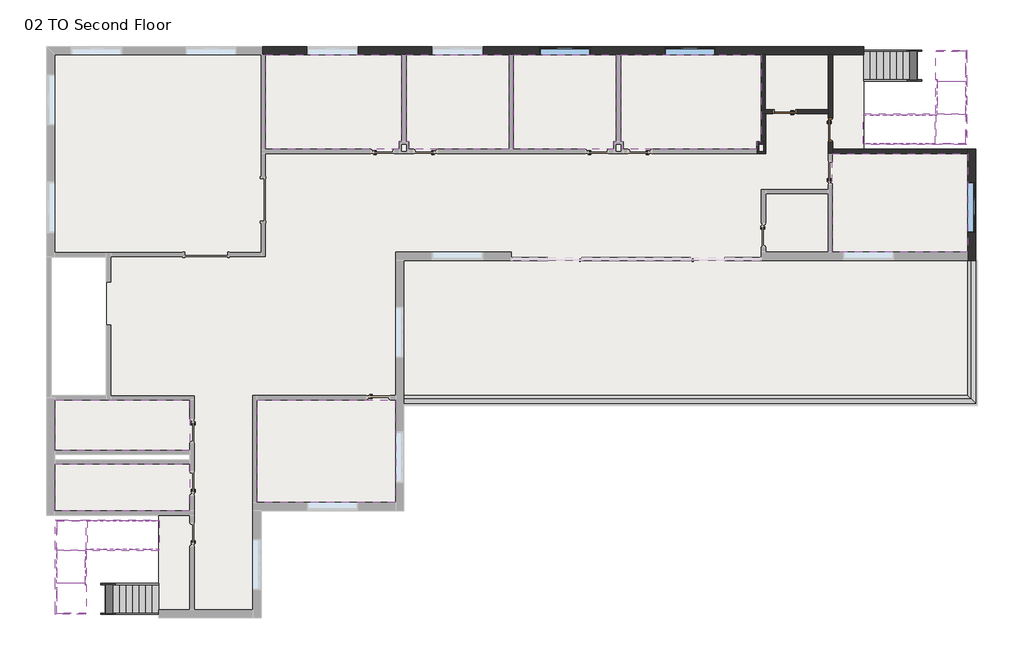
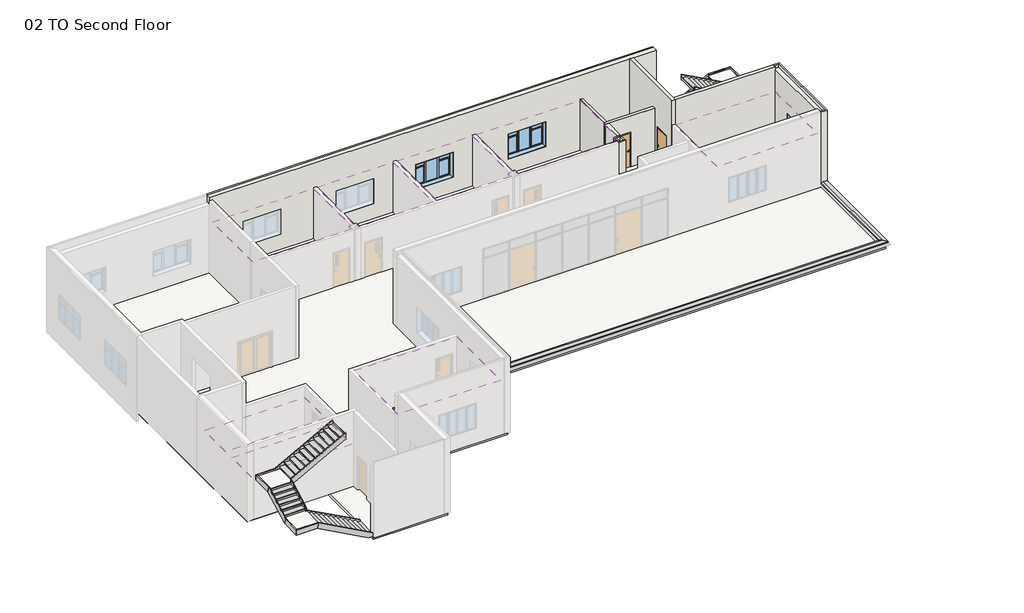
# One storey, part 3 of 3: 20 members, 11 walls, 8 coverings, 6 stair flights, 5 slabs, 3 windows, 2 doors, 2 proxies.
"""IFC4 building model written with IfcOpenShell, lengths in millimetres."""

from ifc_helpers import new_model, si_unit, frame, origin, place, context, project, spatial, polyline, outline, extrude, faceted_brep, transform, mapped, element, save
from components import door_c4c6d6d8, door_9c0c0bcf, non_monolithic_landing_1da9b7fb, non_monolithic_landing_b544ea09, non_monolithic_landing_3a4293be, non_monolithic_landing_285780d2, stair_flight_635392da, stair_flight_28b25a8f, stair_flight_2eaa03d7, stair_flight_7ab5661e, stair_flight_300c26f1, stair_flight_60157ff4, window_casement_triple_side_transom_c3c25feb

model = new_model("IFC4")

# Units and contexts
model_context = context("Model", 3, world=origin())
ifc_project = project(units=[si_unit("LENGTHUNIT", "METRE", prefix="MILLI")], contexts=[model_context])

# Site, building, storey
site = spatial("IfcSite", under=ifc_project)
building = spatial("IfcBuilding", under=site)
storey = spatial("IfcBuildingStorey", under=building, Name="02 TO Second Floor", Elevation=4572.0)

# Proxies
placement = place(None, origin())
element("IfcBuildingElementProxy", 1, Name="Wall Sweeps", at=placement, inside=storey, context=model_context, shape_type="Brep", body=[
    faceted_brep([(-4282.7273699, -5989.8253362, 4838.7), (-4282.7273699, -5761.2253362, 4876.8), (-4282.7273699, -5634.2253362, 4838.7), (-4282.7273699, -5634.2253362, 4775.2), (-4282.7273699, -5989.8253362, 4775.2), (20101.2726301, -5989.8253362, 4838.7), (20101.2726301, -5989.8253362, 4775.2), (19745.6726301, -5634.2253362, 4775.2), (19745.6726301, -5634.2253362, 4838.7), (19872.6726301, -5761.2253362, 4876.8)], [[[0, 1, 2, 3, 4]], [[5, 6, 7, 8, 9]], [[0, 4, 6, 5]], [[4, 3, 7, 6]], [[3, 2, 8, 7]], [[2, 1, 9, 8]], [[1, 0, 5, 9]]]),
])
element("IfcBuildingElementProxy", 2, Name="Wall Sweeps", at=placement, inside=storey, context=model_context, shape_type="Brep", body=[
    faceted_brep([(20101.2726301, -5989.8253362, 4838.7), (19872.6726301, -5761.2253362, 4876.8), (19745.6726301, -5634.2253362, 4838.7), (19745.6726301, -5634.2253362, 4775.2), (20101.2726301, -5989.8253362, 4775.2), (20101.2726301, 115.6996638, 4838.7), (20101.2726301, 115.6996638, 4775.2), (19745.6726301, 115.6996638, 4775.2), (19745.6726301, 115.6996638, 4838.7), (19872.6726301, 115.6996638, 4876.8), (20101.2726301, -5634.2253362, 4775.2)], [[[0, 1, 2, 3, 4]], [[5, 6, 7, 8, 9]], [[0, 4, 10, 6, 5]], [[4, 3, 7, 6, 10]], [[3, 2, 8, 7]], [[2, 1, 9, 8]], [[1, 0, 5, 9]]]),
])

# Coverings
element("IfcCovering", 3, ObjectType="2' x 2' ACT System", at=placement, inside=storey, context=model_context, shape_type="SweptSolid", body=[
    extrude(outline(polyline([(-10194.5773699, 4862.3246638), (-10194.5773699, 8894.5746638), (-4374.8023699, 8894.5746638), (-4374.8023699, 5186.1746638), (-4486.4059277, 5186.1746638), (-4486.4059277, 4862.3246638), (-10194.5773699, 4862.3246638)])), frame((0.0, 0.0, 7620.0), z_axis=(0.0, 0.0, 1.0), x_axis=(1.0, 0.0, 0.0)), (0.0, 0.0, 1.0), 57.15),
])
element("IfcCovering", 4, ObjectType="2' x 2' ACT System", at=placement, inside=storey, context=model_context, shape_type="SweptSolid", body=[
    extrude(outline(polyline([(197.1976301, 8894.5746638), (197.1976301, 4862.3246638), (-4079.0488122, 4862.3246638), (-4079.0488122, 5186.1746638), (-4190.6523699, 5186.1746638), (-4190.6523699, 8894.5746638), (197.1976301, 8894.5746638)])), frame((0.0, 0.0, 7620.0), z_axis=(0.0, 0.0, 1.0), x_axis=(1.0, 0.0, 0.0)), (0.0, 0.0, 1.0), 57.15),
])
element("IfcCovering", 5, ObjectType="2' x 2' ACT System", at=placement, inside=storey, context=model_context, shape_type="SweptSolid", body=[
    extrude(outline(polyline([(381.3476301, 4862.3246638), (381.3476301, 8894.5746638), (4769.1976301, 8894.5746638), (4769.1976301, 5186.1746638), (4657.5940723, 5186.1746638), (4657.5940723, 4862.3246638), (381.3476301, 4862.3246638)])), frame((0.0, 0.0, 7620.0), z_axis=(0.0, 0.0, 1.0), x_axis=(1.0, 0.0, 0.0)), (0.0, 0.0, 1.0), 57.15),
])
element("IfcCovering", 6, ObjectType="2' x 2' ACT System", at=placement, inside=storey, context=model_context, shape_type="SweptSolid", body=[
    extrude(outline(polyline([(10754.0726301, 5186.1746638), (10754.0726301, 4862.3246638), (5064.9511878, 4862.3246638), (5064.9511878, 5186.1746638), (4953.3476301, 5186.1746638), (4953.3476301, 8894.5746638), (10957.2726301, 8894.5746638), (10957.2726301, 6464.1121638), (10957.2726301, 5186.1746638), (10754.0726301, 5186.1746638)])), frame((0.0, 0.0, 7620.0), z_axis=(0.0, 0.0, 1.0), x_axis=(1.0, 0.0, 0.0)), (0.0, 0.0, 1.0), 57.15),
])
element("IfcCovering", 7, ObjectType="2' x 2' ACT System", at=placement, inside=storey, context=model_context, shape_type="SweptSolid", body=[
    extrude(outline(polyline([(19745.6726301, 4678.1746638), (19745.6726301, 471.2996638), (13986.2226301, 471.2996638), (13986.2226301, 4678.1746638), (19745.6726301, 4678.1746638)])), frame((0.0, 0.0, 7620.0), z_axis=(0.0, 0.0, 1.0), x_axis=(1.0, 0.0, 0.0)), (0.0, 0.0, 1.0), 57.15),
])
element("IfcCovering", 8, ObjectType="2' x 2' ACT System", at=placement, inside=storey, context=model_context, shape_type="SweptSolid", body=[
    extrude(outline(polyline([(-4638.3273699, -5827.9003362), (-4638.3273699, -10206.2253362), (-10550.1773699, -10206.2253362), (-10550.1773699, -5827.9003362), (-4638.3273699, -5827.9003362)])), frame((0.0, 0.0, 7620.0), z_axis=(0.0, 0.0, 1.0), x_axis=(1.0, 0.0, 0.0)), (0.0, 0.0, 1.0), 57.15),
])
element("IfcCovering", 9, ObjectType="2' x 2' ACT System", at=placement, inside=storey, context=model_context, shape_type="SweptSolid", body=[
    extrude(outline(polyline([(-19167.1273699, -7988.4878362), (-19167.1273699, -5837.4253362), (-16881.1273699, -5837.4253362), (-13407.6773699, -5837.4253362), (-13407.6773699, -7988.4878362), (-19167.1273699, -7988.4878362)])), frame((0.0, 0.0, 7010.4), z_axis=(0.0, 0.0, 1.0), x_axis=(1.0, 0.0, 0.0)), (0.0, 0.0, 1.0), 57.15),
])
element("IfcCovering", 10, ObjectType="2' x 2' ACT System", at=placement, inside=storey, context=model_context, shape_type="SweptSolid", body=[
    extrude(outline(polyline([(-13407.6773699, -10561.8253362), (-19167.1273699, -10561.8253362), (-19167.1273699, -8563.1628362), (-13407.6773699, -8563.1628362), (-13407.6773699, -10561.8253362)])), frame((0.0, 0.0, 7010.4), z_axis=(0.0, 0.0, 1.0), x_axis=(1.0, 0.0, 0.0)), (0.0, 0.0, 1.0), 57.15),
])

# Doors
door_shape = door_c4c6d6d8(model_context)
element("IfcDoor", 11, ObjectType="Door-Passage-Single-Flush : Door Passage Single Flush_36\" x 80\"", at=placement, inside=storey, context=model_context, shape_type="MappedRepresentation", body=[
    mapped(door_shape, transform((13910.0226301, 5694.1746638, 4572.0), x_axis=(0.0, -1.0, 0.0), y_axis=(1.0, 0.0, 0.0), z_axis=(0.0, 0.0, 1.0))),
])
door_2_shape = door_9c0c0bcf(model_context)
element("IfcDoor", 12, ObjectType="Door-Passage-Single-Flush : Door Passage Single Flush_36\" x 80\"", at=placement, inside=storey, context=model_context, shape_type="MappedRepresentation", body=[
    mapped(door_2_shape, transform((11955.8101301, 6470.4621638, 4572.0), x_axis=(-1.0, 0.0, 0.0), y_axis=(0.0, -1.0, 0.0), z_axis=(0.0, 0.0, 1.0))),
])

# Members
element("IfcMember", 13, ObjectType="Stringer - 2\" Width", at=placement, inside=storey, context=model_context, shape_type="SweptSolid", body=[
    extrude(outline(polyline([(7391.4, -18060.2574256), (7086.6, -17982.53525), (8851.1497528, -14747.5273699), (9198.3436667, -14747.5273699), (7391.4, -18060.2574256)])), frame((0.0, -10993.6253362, 0.0), z_axis=(0.0, 1.0, 0.0), x_axis=(0.0, 0.0, 1.0)), (0.0, 0.0, 1.0), 50.8),
])
element("IfcMember", 14, ObjectType="Stringer - 2\" Width", at=placement, inside=storey, context=model_context, shape_type="SweptSolid", body=[
    extrude(outline(polyline([(7494.2345758, -17871.7273699), (7147.0406619, -17871.7273699), (8851.1497528, -14747.5273699), (9198.3436667, -14747.5273699), (7494.2345758, -17871.7273699)])), frame((0.0, -12263.6253362, 0.0), z_axis=(0.0, 1.0, 0.0), x_axis=(0.0, 0.0, 1.0)), (0.0, 0.0, 1.0), 50.8),
])
element("IfcMember", 15, ObjectType="Stringer - 2\" Width", at=placement, inside=storey, context=model_context, shape_type="SweptSolid", body=[
    extrude(outline(polyline([(-13822.2332163, 6172.2), (-13899.9553918, 6477.0), (-12223.5553918, 7391.4), (-12145.8332163, 7086.6), (-13822.2332163, 6172.2)])), frame((-19141.7273699, 0.0, 0.0), z_axis=(1.0, 0.0, 0.0), x_axis=(0.0, 1.0, 0.0)), (0.0, 0.0, 1.0), 50.8),
])
element("IfcMember", 16, ObjectType="Stringer - 2\" Width", at=placement, inside=storey, context=model_context, shape_type="SweptSolid", body=[
    extrude(outline(polyline([(-13711.4253362, 6232.6406619), (-13711.4253362, 6579.8345758), (-12263.6253362, 7369.5436667), (-12263.6253362, 7022.3497528), (-13711.4253362, 6232.6406619)])), frame((-17871.7273699, 0.0, 0.0), z_axis=(1.0, 0.0, 0.0), x_axis=(0.0, 1.0, 0.0)), (0.0, 0.0, 1.0), 50.8),
])
element("IfcMember", 17, ObjectType="Stringer - 2\" Width", at=placement, inside=storey, context=model_context, shape_type="Brep", body=[
    faceted_brep([(-18060.2574256, -10993.6253362, 7391.4), (-18060.2574256, -10942.8253362, 7391.4), (-19141.7273699, -10942.8253362, 7391.4), (-19090.9273699, -10993.6253362, 7391.4), (-17982.53525, -10993.6253362, 7086.6), (-19090.9273699, -10993.6253362, 7086.6), (-17982.53525, -10942.8253362, 7086.6), (-19141.7273699, -10942.8253362, 7086.6)], [[[0, 1, 2, 3]], [[4, 0, 3, 5]], [[6, 4, 5, 7]], [[1, 6, 7, 2]], [[1, 0, 4, 6]], [[2, 7, 5, 3]]]),
])
element("IfcMember", 18, ObjectType="Stringer - 2\" Width", at=placement, inside=storey, context=model_context, shape_type="Brep", body=[
    faceted_brep([(-19090.9273699, -10993.6253362, 7391.4), (-19141.7273699, -10942.8253362, 7391.4), (-19141.7273699, -12223.5553918, 7391.4), (-19090.9273699, -12223.5553918, 7391.4), (-19090.9273699, -10993.6253362, 7086.6), (-19090.9273699, -12145.8332163, 7086.6), (-19141.7273699, -10942.8253362, 7086.6), (-19141.7273699, -12145.8332163, 7086.6)], [[[0, 1, 2, 3]], [[4, 0, 3, 5]], [[6, 4, 5, 7]], [[1, 6, 7, 2]], [[1, 0, 4, 6]], [[2, 7, 5, 3]]]),
])
element("IfcMember", 19, ObjectType="Stringer - 2\" Width", at=placement, inside=storey, context=model_context, shape_type="SweptSolid", body=[
    extrude(outline(polyline([(4572.0, -14747.5273699), (4778.7436667, -14747.5273699), (6477.0, -17860.9973143), (6172.2, -17938.7194899), (4572.0, -15005.0194899), (4572.0, -14747.5273699)])), frame((0.0, -14981.4253362, 0.0), z_axis=(0.0, 1.0, 0.0), x_axis=(0.0, 0.0, 1.0)), (0.0, 0.0, 1.0), 50.8),
])
element("IfcMember", 20, ObjectType="Stringer - 2\" Width", at=placement, inside=storey, context=model_context, shape_type="SweptSolid", body=[
    extrude(outline(polyline([(4572.0, -14747.5273699), (4778.7436667, -14747.5273699), (6455.1436667, -17820.9273699), (6107.9497528, -17820.9273699), (4572.0, -15005.0194899), (4572.0, -14747.5273699)])), frame((0.0, -13711.4253362, 0.0), z_axis=(0.0, 1.0, 0.0), x_axis=(0.0, 0.0, 1.0)), (0.0, 0.0, 1.0), 50.8),
])
element("IfcMember", 21, ObjectType="Stringer - 2\" Width", at=placement, inside=storey, context=model_context, shape_type="Brep", body=[
    faceted_brep([(-19090.9273699, -13899.9553918, 6477.0), (-19141.7273699, -13899.9553918, 6477.0), (-19141.7273699, -14981.4253362, 6477.0), (-19090.9273699, -14930.6253362, 6477.0), (-19090.9273699, -13822.2332163, 6172.2), (-19090.9273699, -14930.6253362, 6172.2), (-19141.7273699, -13822.2332163, 6172.2), (-19141.7273699, -14981.4253362, 6172.2)], [[[0, 1, 2, 3]], [[4, 0, 3, 5]], [[6, 4, 5, 7]], [[1, 6, 7, 2]], [[1, 0, 4, 6]], [[2, 7, 5, 3]]]),
])
element("IfcMember", 22, ObjectType="Stringer - 2\" Width", at=placement, inside=storey, context=model_context, shape_type="Brep", body=[
    faceted_brep([(-19090.9273699, -14930.6253362, 6477.0), (-19141.7273699, -14981.4253362, 6477.0), (-17860.9973143, -14981.4253362, 6477.0), (-17860.9973143, -14930.6253362, 6477.0), (-19090.9273699, -14930.6253362, 6172.2), (-17938.7194899, -14930.6253362, 6172.2), (-19141.7273699, -14981.4253362, 6172.2), (-17938.7194899, -14981.4253362, 6172.2)], [[[0, 1, 2, 3]], [[4, 0, 3, 5]], [[6, 4, 5, 7]], [[1, 6, 7, 2]], [[1, 0, 4, 6]], [[2, 7, 5, 3]]]),
])
element("IfcMember", 23, ObjectType="Stringer - 2\" Width", at=placement, inside=storey, context=model_context, shape_type="SweptSolid", body=[
    extrude(outline(polyline([(7086.6, 18561.0805101), (7391.4, 18638.8026857), (9198.3436667, 15326.0726301), (8851.1497528, 15326.0726301), (7086.6, 18561.0805101)])), frame((0.0, 5059.1746638, 0.0), z_axis=(0.0, 1.0, 0.0), x_axis=(0.0, 0.0, 1.0)), (0.0, 0.0, 1.0), 50.8),
])
element("IfcMember", 24, ObjectType="Stringer - 2\" Width", at=placement, inside=storey, context=model_context, shape_type="SweptSolid", body=[
    extrude(outline(polyline([(7147.0406619, 18450.2726301), (7494.2345758, 18450.2726301), (9198.3436667, 15326.0726301), (8851.1497528, 15326.0726301), (7147.0406619, 18450.2726301)])), frame((0.0, 6329.1746638, 0.0), z_axis=(0.0, 1.0, 0.0), x_axis=(0.0, 0.0, 1.0)), (0.0, 0.0, 1.0), 50.8),
])
element("IfcMember", 25, ObjectType="Stringer - 2\" Width", at=placement, inside=storey, context=model_context, shape_type="SweptSolid", body=[
    extrude(outline(polyline([(8016.3047195, 6477.0), (7938.5825439, 6172.2), (6262.1825439, 7086.6), (6339.9047195, 7391.4), (8016.3047195, 6477.0)])), frame((19669.4726301, 0.0, 0.0), z_axis=(1.0, 0.0, 0.0), x_axis=(0.0, 1.0, 0.0)), (0.0, 0.0, 1.0), 50.8),
])
element("IfcMember", 26, ObjectType="Stringer - 2\" Width", at=placement, inside=storey, context=model_context, shape_type="SweptSolid", body=[
    extrude(outline(polyline([(7827.7746638, 6579.8345758), (7827.7746638, 6232.6406619), (6379.9746638, 7022.3497528), (6379.9746638, 7369.5436667), (7827.7746638, 6579.8345758)])), frame((18399.4726301, 0.0, 0.0), z_axis=(1.0, 0.0, 0.0), x_axis=(0.0, 1.0, 0.0)), (0.0, 0.0, 1.0), 50.8),
])
element("IfcMember", 27, ObjectType="Stringer - 2\" Width", at=placement, inside=storey, context=model_context, shape_type="Brep", body=[
    faceted_brep([(18638.8026857, 5109.9746638, 7391.4), (18638.8026857, 5059.1746638, 7391.4), (19720.2726301, 5059.1746638, 7391.4), (19669.4726301, 5109.9746638, 7391.4), (18561.0805101, 5109.9746638, 7086.6), (19669.4726301, 5109.9746638, 7086.6), (18561.0805101, 5059.1746638, 7086.6), (19720.2726301, 5059.1746638, 7086.6)], [[[0, 1, 2, 3]], [[4, 0, 3, 5]], [[6, 4, 5, 7]], [[1, 6, 7, 2]], [[1, 0, 4, 6]], [[2, 7, 5, 3]]]),
])
element("IfcMember", 28, ObjectType="Stringer - 2\" Width", at=placement, inside=storey, context=model_context, shape_type="Brep", body=[
    faceted_brep([(19669.4726301, 5109.9746638, 7391.4), (19720.2726301, 5059.1746638, 7391.4), (19720.2726301, 6339.9047195, 7391.4), (19669.4726301, 6339.9047195, 7391.4), (19669.4726301, 5109.9746638, 7086.6), (19669.4726301, 6262.1825439, 7086.6), (19720.2726301, 5059.1746638, 7086.6), (19720.2726301, 6262.1825439, 7086.6)], [[[0, 1, 2, 3]], [[4, 0, 3, 5]], [[6, 4, 5, 7]], [[1, 6, 7, 2]], [[1, 0, 4, 6]], [[2, 7, 5, 3]]]),
])
element("IfcMember", 29, ObjectType="Stringer - 2\" Width", at=placement, inside=storey, context=model_context, shape_type="SweptSolid", body=[
    extrude(outline(polyline([(4778.7436667, 15326.0726301), (4572.0, 15326.0726301), (4572.0, 15583.56475), (6172.2, 18517.26475), (6477.0, 18439.5425744), (4778.7436667, 15326.0726301)])), frame((0.0, 9046.9746638, 0.0), z_axis=(0.0, 1.0, 0.0), x_axis=(0.0, 0.0, 1.0)), (0.0, 0.0, 1.0), 50.8),
])
element("IfcMember", 30, ObjectType="Stringer - 2\" Width", at=placement, inside=storey, context=model_context, shape_type="SweptSolid", body=[
    extrude(outline(polyline([(4778.7436667, 15326.0726301), (4572.0, 15326.0726301), (4572.0, 15583.56475), (6107.9497528, 18399.4726301), (6455.1436667, 18399.4726301), (4778.7436667, 15326.0726301)])), frame((0.0, 7776.9746638, 0.0), z_axis=(0.0, 1.0, 0.0), x_axis=(0.0, 0.0, 1.0)), (0.0, 0.0, 1.0), 50.8),
])
element("IfcMember", 31, ObjectType="Stringer - 2\" Width", at=placement, inside=storey, context=model_context, shape_type="Brep", body=[
    faceted_brep([(19669.4726301, 8016.3047195, 6477.0), (19720.2726301, 8016.3047195, 6477.0), (19720.2726301, 9097.7746638, 6477.0), (19669.4726301, 9046.9746638, 6477.0), (19669.4726301, 7938.5825439, 6172.2), (19669.4726301, 9046.9746638, 6172.2), (19720.2726301, 7938.5825439, 6172.2), (19720.2726301, 9097.7746638, 6172.2)], [[[0, 1, 2, 3]], [[4, 0, 3, 5]], [[6, 4, 5, 7]], [[1, 6, 7, 2]], [[1, 0, 4, 6]], [[2, 7, 5, 3]]]),
])
element("IfcMember", 32, ObjectType="Stringer - 2\" Width", at=placement, inside=storey, context=model_context, shape_type="Brep", body=[
    faceted_brep([(19669.4726301, 9046.9746638, 6477.0), (19720.2726301, 9097.7746638, 6477.0), (18439.5425744, 9097.7746638, 6477.0), (18439.5425744, 9046.9746638, 6477.0), (19669.4726301, 9046.9746638, 6172.2), (18517.26475, 9046.9746638, 6172.2), (19720.2726301, 9097.7746638, 6172.2), (18517.26475, 9097.7746638, 6172.2)], [[[0, 1, 2, 3]], [[4, 0, 3, 5]], [[6, 4, 5, 7]], [[1, 6, 7, 2]], [[1, 0, 4, 6]], [[2, 7, 5, 3]]]),
])

# Slabs
element("IfcSlab", 33, ObjectType="Floor_CIP on Metal Deck", at=placement, inside=storey, context=model_context, shape_type="Brep", body=[
    faceted_brep([(19999.6726301, 4678.1746638, 4394.2), (19999.6726301, -5888.2253362, 4394.2), (19745.6726301, -5888.2253362, 4394.2), (-4384.3273699, -5888.2253362, 4394.2), (-4384.3273699, -5989.8253362, 4394.2), (-4384.3273699, -10460.2253362, 4394.2), (-10480.3273699, -10460.2253362, 4394.2), (-10480.3273699, -15032.2253362, 4394.2), (-14747.5273699, -15032.2253362, 4394.2), (-14747.5273699, -10561.8253362, 4394.2), (-19421.1273699, -10561.8253362, 4394.2), (-19421.1273699, 9148.5746638, 4394.2), (15326.0726301, 9148.5746638, 4394.2), (15326.0726301, 4678.1746638, 4394.2), (-19179.8273699, -8156.7628362, 4394.2), (-19179.8273699, -8394.8878362, 4394.2), (-13391.8023699, -8394.8878362, 4394.2), (-13391.8023699, -8156.7628362, 4394.2), (-16982.7273699, 258.5746638, 4394.2), (-19319.5273699, 258.5746638, 4394.2), (-19319.5273699, -5634.2253362, 4394.2), (-16982.7273699, -5634.2253362, 4394.2), (19999.6726301, -5888.2253362, 4572.0), (19999.6726301, 4678.1746638, 4572.0), (15326.0726301, 4678.1746638, 4572.0), (15326.0726301, 9148.5746638, 4572.0), (-19421.1273699, 9148.5746638, 4572.0), (-19421.1273699, -10561.8253362, 4572.0), (-14747.5273699, -10561.8253362, 4572.0), (-14747.5273699, -15032.2253362, 4572.0), (-10480.3273699, -15032.2253362, 4572.0), (-10480.3273699, -10460.2253362, 4572.0), (-4384.3273699, -10460.2253362, 4572.0), (-4384.3273699, -5989.8253362, 4572.0), (-4384.3273699, -5913.6253362, 4572.0), (-4384.3273699, -5888.2253362, 4572.0), (19745.6726301, -5888.2253362, 4572.0), (-19179.8273699, -8394.8878362, 4572.0), (-19179.8273699, -8156.7628362, 4572.0), (-13391.8023699, -8156.7628362, 4572.0), (-13391.8023699, -8394.8878362, 4572.0), (-19319.5273699, 258.5746638, 4572.0), (-16982.7273699, 258.5746638, 4572.0), (-16982.7273699, -5634.2253362, 4572.0), (-19319.5273699, -5634.2253362, 4572.0)], [[[0, 1, 2, 3, 4, 5, 6, 7, 8, 9, 10, 11, 12, 13], [14, 15, 16, 17], [18, 19, 20, 21]], [[22, 23, 24, 25, 26, 27, 28, 29, 30, 31, 32, 33, 34, 35, 36], [37, 38, 39, 40], [41, 42, 43, 44]], [[1, 0, 23, 22]], [[5, 4, 3, 35, 34, 33, 32]], [[6, 5, 32, 31]], [[7, 6, 31, 30]], [[8, 7, 30, 29]], [[11, 10, 27, 26]], [[12, 11, 26, 25]], [[3, 2, 1, 22, 36, 35]], [[9, 8, 29, 28]], [[10, 9, 28, 27]], [[13, 12, 25, 24]], [[0, 13, 24, 23]], [[14, 38, 37, 15]], [[15, 37, 40, 16]], [[16, 40, 39, 17]], [[38, 14, 17, 39]], [[18, 42, 41, 19]], [[19, 41, 44, 20]], [[20, 44, 43, 21]], [[42, 18, 21, 43]]]),
])
non_monolithic_landing_shape = non_monolithic_landing_1da9b7fb(model_context)
element("IfcSlab", 34, ObjectType="Non-Monolithic Landing", at=placement, inside=storey, context=model_context, shape_type="MappedRepresentation", body=[
    mapped(non_monolithic_landing_shape, transform((0.0, 0.0, 0.0), x_axis=(1.0, 0.0, 0.0), y_axis=(0.0, 1.0, 0.0), z_axis=(0.0, 0.0, 1.0))),
])
non_monolithic_landing_2_shape = non_monolithic_landing_b544ea09(model_context)
element("IfcSlab", 35, ObjectType="Non-Monolithic Landing", at=placement, inside=storey, context=model_context, shape_type="MappedRepresentation", body=[
    mapped(non_monolithic_landing_2_shape, transform((0.0, 0.0, 0.0), x_axis=(1.0, 0.0, 0.0), y_axis=(0.0, 1.0, 0.0), z_axis=(0.0, 0.0, 1.0))),
])
non_monolithic_landing_3_shape = non_monolithic_landing_3a4293be(model_context)
element("IfcSlab", 36, ObjectType="Non-Monolithic Landing", at=placement, inside=storey, context=model_context, shape_type="MappedRepresentation", body=[
    mapped(non_monolithic_landing_3_shape, transform((0.0, 0.0, 0.0), x_axis=(1.0, 0.0, 0.0), y_axis=(0.0, 1.0, 0.0), z_axis=(0.0, 0.0, 1.0))),
])
non_monolithic_landing_4_shape = non_monolithic_landing_285780d2(model_context)
element("IfcSlab", 37, ObjectType="Non-Monolithic Landing", at=placement, inside=storey, context=model_context, shape_type="MappedRepresentation", body=[
    mapped(non_monolithic_landing_4_shape, transform((0.0, 0.0, 0.0), x_axis=(1.0, 0.0, 0.0), y_axis=(0.0, 1.0, 0.0), z_axis=(0.0, 0.0, 1.0))),
])

# Stair flights
stair_flight_shape = stair_flight_635392da(model_context)
element("IfcStairFlight", 38, ObjectType="2\" Tread 1\" Nosing 1/4\" Riser", at=placement, inside=storey, context=model_context, shape_type="MappedRepresentation", body=[
    mapped(stair_flight_shape, transform((0.0, 0.0, 0.0), x_axis=(1.0, 0.0, 0.0), y_axis=(0.0, 1.0, 0.0), z_axis=(0.0, 0.0, 1.0))),
])
stair_flight_2_shape = stair_flight_28b25a8f(model_context)
element("IfcStairFlight", 39, ObjectType="2\" Tread 1\" Nosing 1/4\" Riser", at=placement, inside=storey, context=model_context, shape_type="MappedRepresentation", body=[
    mapped(stair_flight_2_shape, transform((0.0, 0.0, 0.0), x_axis=(1.0, 0.0, 0.0), y_axis=(0.0, 1.0, 0.0), z_axis=(0.0, 0.0, 1.0))),
])
stair_flight_3_shape = stair_flight_2eaa03d7(model_context)
element("IfcStairFlight", 40, ObjectType="2\" Tread 1\" Nosing 1/4\" Riser", at=placement, inside=storey, context=model_context, shape_type="MappedRepresentation", body=[
    mapped(stair_flight_3_shape, transform((0.0, 0.0, 0.0), x_axis=(1.0, 0.0, 0.0), y_axis=(0.0, 1.0, 0.0), z_axis=(0.0, 0.0, 1.0))),
])
stair_flight_4_shape = stair_flight_7ab5661e(model_context)
element("IfcStairFlight", 41, ObjectType="2\" Tread 1\" Nosing 1/4\" Riser", at=placement, inside=storey, context=model_context, shape_type="MappedRepresentation", body=[
    mapped(stair_flight_4_shape, transform((0.0, 0.0, 0.0), x_axis=(1.0, 0.0, 0.0), y_axis=(0.0, 1.0, 0.0), z_axis=(0.0, 0.0, 1.0))),
])
stair_flight_5_shape = stair_flight_300c26f1(model_context)
element("IfcStairFlight", 42, ObjectType="2\" Tread 1\" Nosing 1/4\" Riser", at=placement, inside=storey, context=model_context, shape_type="MappedRepresentation", body=[
    mapped(stair_flight_5_shape, transform((0.0, 0.0, 0.0), x_axis=(1.0, 0.0, 0.0), y_axis=(0.0, 1.0, 0.0), z_axis=(0.0, 0.0, 1.0))),
])
stair_flight_6_shape = stair_flight_60157ff4(model_context)
element("IfcStairFlight", 43, ObjectType="2\" Tread 1\" Nosing 1/4\" Riser", at=placement, inside=storey, context=model_context, shape_type="MappedRepresentation", body=[
    mapped(stair_flight_6_shape, transform((0.0, 0.0, 0.0), x_axis=(1.0, 0.0, 0.0), y_axis=(0.0, 1.0, 0.0), z_axis=(0.0, 0.0, 1.0))),
])

# Walls
element("IfcWall", 44, ObjectType="Ext Wall_14\"_Brick on CMU", at=placement, inside=storey, context=model_context, shape_type="Brep", body=[
    faceted_brep([(19745.6726301, 4881.3746638, 4572.0), (19745.6726301, 471.2996638, 4572.0), (19745.6726301, 115.6996638, 4572.0), (19745.6726301, 115.6996638, 9144.0), (19745.6726301, 196.6621638, 9144.0), (19745.6726301, 196.6621638, 8966.2), (19745.6726301, 4773.4246638, 8966.2), (19745.6726301, 4773.4246638, 9144.0), (19745.6726301, 4881.3746638, 9144.0), (19745.6726301, 1312.6746638, 7010.4), (19745.6726301, 1312.6746638, 5486.4), (19745.6726301, 3471.6746638, 5486.4), (19745.6726301, 3471.6746638, 7010.4), (20101.2726301, 4881.3746638, 9144.0), (20101.2726301, 115.6996638, 9144.0), (20101.2726301, 115.6996638, 4775.2), (20101.2726301, 115.6996638, 4715.9333333), (20101.2726301, 115.6996638, 4648.2), (20101.2726301, 115.6996638, 4572.0), (20101.2726301, 4881.3746638, 4572.0), (20101.2726301, 1312.6746638, 5486.4), (20101.2726301, 1312.6746638, 7010.4), (20101.2726301, 3471.6746638, 7010.4), (20101.2726301, 3471.6746638, 5486.4), (20025.0726301, 4881.3746638, 9144.0), (20025.0726301, 4881.3746638, 4572.0), (20025.0726301, 115.6996638, 4572.0), (20025.0726301, 115.6996638, 9144.0), (19999.6726301, 196.6621638, 8966.2), (19999.6726301, 4773.4246638, 8966.2), (19999.6726301, 196.6621638, 9144.0), (19999.6726301, 4773.4246638, 9144.0)], [[[0, 1, 2, 3, 4, 5, 6, 7, 8], [9, 10, 11, 12]], [[13, 14, 15, 16, 17, 18, 19], [20, 21, 22, 23]], [[0, 8, 24, 13, 19, 25]], [[10, 9, 21, 20]], [[11, 10, 20, 23]], [[12, 11, 23, 22]], [[9, 12, 22, 21]], [[3, 2, 26, 18, 17, 16, 15, 14, 27]], [[28, 29, 6, 5]], [[29, 28, 30, 31]], [[30, 28, 5, 4]], [[29, 31, 7, 6]], [[2, 1, 0, 25, 26]], [[25, 19, 18, 26]], [[14, 13, 24, 27]], [[3, 27, 24, 8, 7, 31, 30, 4]]]),
])
element("IfcWall", 45, ObjectType="Ext Wall_14\"_Brick on CMU", at=placement, inside=storey, context=model_context, shape_type="Brep", body=[
    faceted_brep([(-10331.1023699, 8894.5746638, 4572.0), (-10283.4773699, 8894.5746638, 4572.0), (-10194.5773699, 8894.5746638, 4572.0), (-4374.8023699, 8894.5746638, 4572.0), (-4190.6523699, 8894.5746638, 4572.0), (197.1976301, 8894.5746638, 4572.0), (381.3476301, 8894.5746638, 4572.0), (4769.1976301, 8894.5746638, 4572.0), (4953.3476301, 8894.5746638, 4572.0), (10957.2726301, 8894.5746638, 4572.0), (11125.5476301, 8894.5746638, 4572.0), (15326.0726301, 8894.5746638, 4572.0), (15326.0726301, 8894.5746638, 9144.0), (-10331.1023699, 8894.5746638, 9144.0), (-10331.1023699, 8894.5746638, 8686.8), (-6251.2273699, 8894.5746638, 7010.4), (-6251.2273699, 8894.5746638, 5486.4), (-8410.2273699, 8894.5746638, 5486.4), (-8410.2273699, 8894.5746638, 7010.4), (-917.2273699, 8894.5746638, 7010.4), (-917.2273699, 8894.5746638, 5486.4), (-3076.2273699, 8894.5746638, 5486.4), (-3076.2273699, 8894.5746638, 7010.4), (3654.7726301, 8894.5746638, 7010.4), (3654.7726301, 8894.5746638, 5486.4), (1495.7726301, 8894.5746638, 5486.4), (1495.7726301, 8894.5746638, 7010.4), (8988.7726301, 8894.5746638, 7010.4), (8988.7726301, 8894.5746638, 5486.4), (6829.7726301, 8894.5746638, 5486.4), (6829.7726301, 8894.5746638, 7010.4), (-10331.1023699, 9250.1746638, 4572.0), (-10331.1023699, 9250.1746638, 9144.0), (15326.0726301, 9250.1746638, 9144.0), (15326.0726301, 9250.1746638, 4572.0), (-10283.4773699, 9250.1746638, 4572.0), (-6251.2273699, 9250.1746638, 7010.4), (-8410.2273699, 9250.1746638, 7010.4), (-8410.2273699, 9250.1746638, 5486.4), (-6251.2273699, 9250.1746638, 5486.4), (-917.2273699, 9250.1746638, 7010.4), (-3076.2273699, 9250.1746638, 7010.4), (-3076.2273699, 9250.1746638, 5486.4), (-917.2273699, 9250.1746638, 5486.4), (3654.7726301, 9250.1746638, 7010.4), (1495.7726301, 9250.1746638, 7010.4), (1495.7726301, 9250.1746638, 5486.4), (3654.7726301, 9250.1746638, 5486.4), (8988.7726301, 9250.1746638, 7010.4), (6829.7726301, 9250.1746638, 7010.4), (6829.7726301, 9250.1746638, 5486.4), (8988.7726301, 9250.1746638, 5486.4), (15326.0726301, 9173.9746638, 4572.0), (15326.0726301, 9173.9746638, 9144.0), (-10331.1023699, 9173.9746638, 9144.0), (-10331.1023699, 9173.9746638, 4572.0)], [[[0, 1, 2, 3, 4, 5, 6, 7, 8, 9, 10, 11, 12, 13, 14], [15, 16, 17, 18], [19, 20, 21, 22], [23, 24, 25, 26], [27, 28, 29, 30]], [[31, 32, 33, 34, 35], [36, 37, 38, 39], [40, 41, 42, 43], [44, 45, 46, 47], [48, 49, 50, 51]], [[12, 11, 52, 34, 33, 53]], [[0, 14, 13, 54, 32, 31, 55]], [[11, 10, 9, 8, 7, 6, 5, 4, 3, 2, 1, 0, 55, 52]], [[15, 18, 37, 36]], [[18, 17, 38, 37]], [[17, 16, 39, 38]], [[16, 15, 36, 39]], [[19, 22, 41, 40]], [[22, 21, 42, 41]], [[21, 20, 43, 42]], [[20, 19, 40, 43]], [[23, 26, 45, 44]], [[26, 25, 46, 45]], [[25, 24, 47, 46]], [[24, 23, 44, 47]], [[27, 30, 49, 48]], [[30, 29, 50, 49]], [[29, 28, 51, 50]], [[28, 27, 48, 51]], [[55, 31, 35, 34, 52]], [[53, 33, 32, 54]], [[13, 12, 53, 54]]]),
])
element("IfcWall", 46, ObjectType="IntWall_P1_7 1/4\"", at=placement, inside=storey, context=model_context, shape_type="SweptSolid", body=[
    extrude(outline(polyline([(10957.2726301, 5186.1746638), (10957.2726301, 6379.9746638), (11141.4226301, 6379.9746638), (11141.4226301, 5186.1746638), (10957.2726301, 5186.1746638)])), frame((0.0, 0.0, 4572.0), z_axis=(0.0, 0.0, 1.0), x_axis=(1.0, 0.0, 0.0)), (0.0, 0.0, 1.0), 3098.8),
])
element("IfcWall", 47, ObjectType="IntWall_P2_6 5/8\"", at=placement, inside=storey, context=model_context, shape_type="Brep", body=[
    faceted_brep([(13802.0726301, 6379.9746638, 4572.0), (13802.0726301, 6379.9746638, 7670.8), (11141.4226301, 6379.9746638, 7670.8), (10957.2726301, 6379.9746638, 7670.8), (10957.2726301, 6379.9746638, 4572.0), (11141.4226301, 6379.9746638, 4572.0), (11447.8101301, 6379.9746638, 4572.0), (11447.8101301, 6379.9746638, 6705.6), (12463.8101301, 6379.9746638, 6705.6), (12463.8101301, 6379.9746638, 4572.0), (10957.2726301, 6548.2496638, 7670.8), (11125.5476301, 6548.2496638, 7670.8), (13802.0726301, 6548.2496638, 7670.8), (13802.0726301, 6548.2496638, 4572.0), (12463.8101301, 6548.2496638, 4572.0), (12463.8101301, 6548.2496638, 6705.6), (11447.8101301, 6548.2496638, 6705.6), (11447.8101301, 6548.2496638, 4572.0), (11125.5476301, 6548.2496638, 4572.0), (10957.2726301, 6548.2496638, 4572.0), (13802.0726301, 6395.8496638, 7670.8), (10957.2726301, 6395.8496638, 7670.8)], [[[0, 1, 2, 3, 4, 5, 6, 7, 8, 9]], [[10, 11, 12, 13, 14, 15, 16, 17, 18, 19]], [[13, 0, 9, 14]], [[4, 19, 18, 17, 6, 5]], [[1, 0, 13, 12, 20]], [[4, 3, 21, 10, 19]], [[12, 11, 10, 21, 20]], [[3, 2, 1, 20, 21]], [[16, 7, 6, 17]], [[7, 16, 15, 8]], [[8, 15, 14, 9]]]),
])
element("IfcWall", 48, ObjectType="IntWall_P2_6 5/8\"", at=placement, inside=storey, context=model_context, shape_type="SweptSolid", body=[
    extrude(outline(polyline([(4572.0, 11125.5476301), (7670.8, 11125.5476301), (7670.8, 10973.1476301), (7670.8, 10957.2726301), (4572.0, 10957.2726301), (4572.0, 11125.5476301)])), frame((0.0, 6548.2496638, 0.0), z_axis=(0.0, 1.0, 0.0), x_axis=(0.0, 0.0, 1.0)), (0.0, 0.0, 1.0), 2346.325),
])
element("IfcWall", 49, ObjectType="IntWall_P3_3 5/8\"", at=placement, inside=storey, context=model_context, shape_type="Brep", body=[
    faceted_brep([(10754.0726301, 5094.0996638, 4572.0), (10846.1476301, 5094.0996638, 4572.0), (11049.3476301, 5094.0996638, 4572.0), (11141.4226301, 5094.0996638, 4572.0), (11141.4226301, 5094.0996638, 7670.8), (11049.3476301, 5094.0996638, 7670.8), (10846.1476301, 5094.0996638, 7670.8), (10754.0726301, 5094.0996638, 7670.8), (10754.0726301, 5186.1746638, 4572.0), (10754.0726301, 5186.1746638, 7670.8), (10957.2726301, 5186.1746638, 7670.8), (11141.4226301, 5186.1746638, 7670.8), (11141.4226301, 5186.1746638, 4572.0), (10957.2726301, 5186.1746638, 4572.0)], [[[0, 1, 2, 3, 4, 5, 6, 7]], [[8, 9, 10, 11, 12, 13]], [[3, 2, 1, 0, 8, 13, 12]], [[7, 6, 5, 4, 11, 10, 9]], [[0, 7, 9, 8]], [[4, 3, 12, 11]]]),
])
element("IfcWall", 50, ObjectType="IntWall_P3_3 5/8\"", at=placement, inside=storey, context=model_context, shape_type="Brep", body=[
    faceted_brep([(10846.1476301, 4770.2496638, 4572.0), (10846.1476301, 5094.0996638, 4572.0), (10846.1476301, 5094.0996638, 7670.8), (10846.1476301, 4770.2496638, 7670.8), (10754.0726301, 4770.2496638, 4572.0), (10754.0726301, 4770.2496638, 7670.8), (10754.0726301, 4862.3246638, 7670.8), (10754.0726301, 5094.0996638, 7670.8), (10754.0726301, 5094.0996638, 4572.0), (10754.0726301, 4862.3246638, 4572.0)], [[[0, 1, 2, 3]], [[4, 5, 6, 7, 8, 9]], [[1, 0, 4, 9, 8]], [[3, 2, 7, 6, 5]], [[2, 1, 8, 7]], [[0, 3, 5, 4]]]),
])
element("IfcWall", 51, ObjectType="IntWall_P3_3 5/8\"", at=placement, inside=storey, context=model_context, shape_type="Brep", body=[
    faceted_brep([(11141.4226301, 4770.2496638, 4572.0), (11049.3476301, 4770.2496638, 4572.0), (10846.1476301, 4770.2496638, 4572.0), (10754.0726301, 4770.2496638, 4572.0), (10754.0726301, 4770.2496638, 7670.8), (10846.1476301, 4770.2496638, 7670.8), (11049.3476301, 4770.2496638, 7670.8), (11141.4226301, 4770.2496638, 7670.8), (11141.4226301, 4678.1746638, 4572.0), (11141.4226301, 4678.1746638, 7670.8), (10754.0726301, 4678.1746638, 7670.8), (10754.0726301, 4678.1746638, 4572.0)], [[[0, 1, 2, 3, 4, 5, 6, 7]], [[8, 9, 10, 11]], [[3, 2, 1, 0, 8, 11]], [[7, 6, 5, 4, 10, 9]], [[0, 7, 9, 8]], [[4, 3, 11, 10]]]),
])
element("IfcWall", 52, ObjectType="IntWall_P3_3 5/8\"", at=placement, inside=storey, context=model_context, shape_type="SweptSolid", body=[
    extrude(outline(polyline([(11049.3476301, 4770.2496638), (11049.3476301, 5094.0996638), (11141.4226301, 5094.0996638), (11141.4226301, 4770.2496638), (11049.3476301, 4770.2496638)])), frame((0.0, 0.0, 4572.0), z_axis=(0.0, 0.0, 1.0), x_axis=(1.0, 0.0, 0.0)), (0.0, 0.0, 1.0), 3098.8),
])
element("IfcWall", 53, ObjectType="Shear Wall_S1_8\" CIP", at=placement, inside=storey, context=model_context, shape_type="Brep", body=[
    faceted_brep([(13802.0726301, 4678.1746638, 9144.0), (13802.0726301, 8894.5746638, 9144.0), (13802.0726301, 8894.5746638, 4572.0), (13802.0726301, 6202.1746638, 4572.0), (13802.0726301, 6202.1746638, 6705.6), (13802.0726301, 5186.1746638, 6705.6), (13802.0726301, 5186.1746638, 4572.0), (13802.0726301, 4678.1746638, 4572.0), (14005.2726301, 8894.5746638, 9144.0), (14005.2726301, 4881.3746638, 9144.0), (14005.2726301, 4678.1746638, 9144.0), (14005.2726301, 4678.1746638, 4572.0), (14005.2726301, 4881.3746638, 4572.0), (14005.2726301, 5186.1746638, 4572.0), (14005.2726301, 5186.1746638, 6705.6), (14005.2726301, 6202.1746638, 6705.6), (14005.2726301, 6202.1746638, 4572.0), (14005.2726301, 8894.5746638, 4572.0)], [[[0, 1, 2, 3, 4, 5, 6, 7]], [[8, 9, 10, 11, 12, 13, 14, 15, 16, 17]], [[11, 7, 6, 13, 12]], [[2, 17, 16, 3]], [[1, 0, 10, 9, 8]], [[7, 11, 10, 0]], [[2, 1, 8, 17]], [[5, 14, 13, 6]], [[14, 5, 4, 15]], [[15, 4, 3, 16]]]),
])
element("IfcWall", 54, ObjectType="Shear Wall_S1_8\" CIP", at=placement, inside=storey, context=model_context, shape_type="SweptSolid", body=[
    extrude(outline(polyline([(19745.6726301, 4678.1746638), (14005.2726301, 4678.1746638), (14005.2726301, 4881.3746638), (19745.6726301, 4881.3746638), (19745.6726301, 4678.1746638)])), frame((0.0, 0.0, 4572.0), z_axis=(0.0, 0.0, 1.0), x_axis=(1.0, 0.0, 0.0)), (0.0, 0.0, 1.0), 4572.0),
])

# Windows
window_casement_triple_side_transom_shape = window_casement_triple_side_transom_c3c25feb(model_context)
element("IfcWindow", 55, ObjectType="Window-Casement-Triple-Side-Transom : Triple Side WIndow_B_85\" x 60\"", at=placement, inside=storey, context=model_context, shape_type="MappedRepresentation", body=[
    mapped(window_casement_triple_side_transom_shape, transform((2575.2726301, 9072.3746638, 4572.0), x_axis=(1.0, 0.0, 0.0), y_axis=(0.0, 1.0, 0.0), z_axis=(0.0, 0.0, 1.0))),
])
element("IfcWindow", 56, ObjectType="Window-Casement-Triple-Side-Transom : Triple Side WIndow_B_85\" x 60\"", at=placement, inside=storey, context=model_context, shape_type="MappedRepresentation", body=[
    mapped(window_casement_triple_side_transom_shape, transform((7909.2726301, 9072.3746638, 4572.0), x_axis=(1.0, 0.0, 0.0), y_axis=(0.0, 1.0, 0.0), z_axis=(0.0, 0.0, 1.0))),
])
element("IfcWindow", 57, ObjectType="Window-Casement-Triple-Side-Transom : Triple Side WIndow_B_85\" x 60\"", at=placement, inside=storey, context=model_context, shape_type="MappedRepresentation", body=[
    mapped(window_casement_triple_side_transom_shape, transform((19923.4726301, 2392.1746638, 4572.0), x_axis=(0.0, -1.0, 0.0), y_axis=(1.0, 0.0, 0.0), z_axis=(0.0, 0.0, 1.0))),
])

save(model, "model.ifc")
